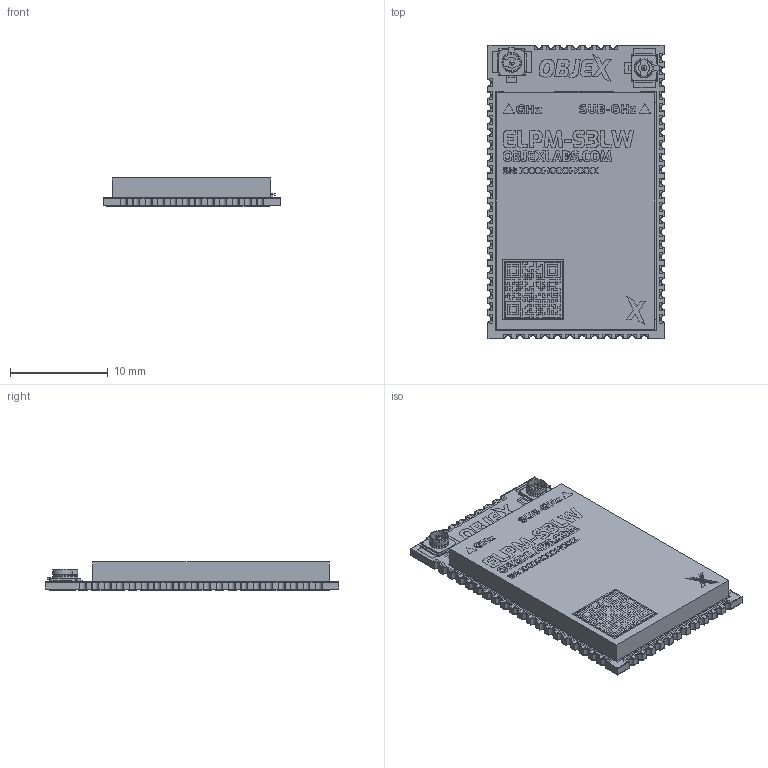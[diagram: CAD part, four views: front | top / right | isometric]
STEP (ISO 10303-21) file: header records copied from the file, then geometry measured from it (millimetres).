
FILE_DESCRIPTION(/* description */ ('KiCad electronic assembly'),/* implementation_level */ '2;1');
FILE_NAME(/* name */ 'OBJEX-ELPM-S3LW_PCB-rev1.6-UFL.step',/* time_stamp */ '2026-08-24T16:21:32+02:00',/* author */ (''),/* organization */ (''),/* preprocessor_version */ 'ST-DEVELOPER v20.1',/* originating_system */ 'Autodesk Translation Framework v15.8.0.0',/* authorisation */ '');
FILE_SCHEMA (('AUTOMOTIVE_DESIGN { 1 0 10303 214 3 1 1 }'));
Products named in the file (12): ELPM-S3LW 1; ELPM-S3LW; ELPM-S3LW/C6LW/N52LW v28; OBJEX-ELPM-S3LW_PCB-rev1.6-UFL_copper; OBJEX-ELPM-S3LW_PCB-rev1.6-UFL_pad; OBJEX-ELPM-S3LW_PCB-rev1.6-UFL_silkscreen; OBJEX-ELPM-S3LW_PCB-rev1.6-UFL_silkscreen_1; OBJEX-ELPM-S3LW_PCB-rev1.6-UFL_soldermask; OBJEX-ELPM-S3LW_PCB-rev1.6-UFL_soldermask_1; OBJEX-ELPM-S3LW_PCB-rev1.6-UFL_PCB; U.FL-R-SMT-1_10_; U.FL-R-SMT-1(10)
Assembly tree (12 placements, depth 3):
  ELPM-S3LW 1
    ELPM-S3LW
      ELPM-S3LW/C6LW/N52LW v28
    U.FL-R-SMT-1_10_  x2
      U.FL-R-SMT-1(10)
    OBJEX-ELPM-S3LW_PCB-rev1.6-UFL_copper
    OBJEX-ELPM-S3LW_PCB-rev1.6-UFL_pad
    OBJEX-ELPM-S3LW_PCB-rev1.6-UFL_silkscreen
    OBJEX-ELPM-S3LW_PCB-rev1.6-UFL_silkscreen_1
    OBJEX-ELPM-S3LW_PCB-rev1.6-UFL_soldermask
    OBJEX-ELPM-S3LW_PCB-rev1.6-UFL_soldermask_1
    OBJEX-ELPM-S3LW_PCB-rev1.6-UFL_PCB
Bounding box: 18 x 30 x 2.87 mm (x, y, z)
Volume: 526.7 mm3; surface area: 5533.8 mm2
Topology: 267 solids, 459 shells, 4952 faces, 16869 edges, 12692 vertices
Faces by surface type: plane 3954, bspline 617, cylinder 375, cone 6
Full cylindrical faces by diameter (mm): 0.5 x2, 1.72 x2, 1.86 x2, 2 x4
Entity records: 183864 total; most frequent: CARTESIAN_POINT 42102, ORIENTED_EDGE 28740, DIRECTION 25218, EDGE_CURVE 16691, LINE 14414, VECTOR 14414, VERTEX_POINT 12576, AXIS2_PLACEMENT_3D 5402
